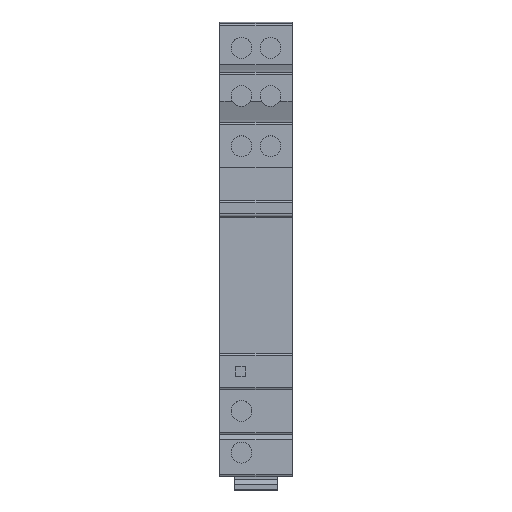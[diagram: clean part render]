
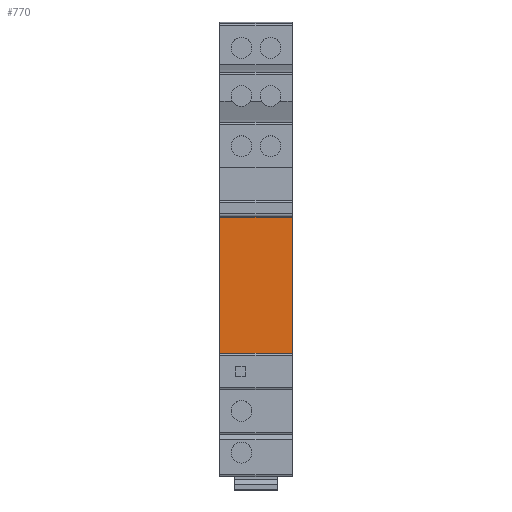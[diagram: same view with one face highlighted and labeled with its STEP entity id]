
A CAD part, top view. The second image highlights one B-rep face of the part: STEP entity #770.
In plain terms, the highlighted planar face has unit normal (0, 0, 1).
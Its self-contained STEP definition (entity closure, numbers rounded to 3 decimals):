
#244 = ORIENTED_EDGE ( 'NONE', *, *, #2442, .T. ) ;
#550 = ORIENTED_EDGE ( 'NONE', *, *, #1262, .F. ) ;
#592 = CARTESIAN_POINT ( 'NONE',  ( 7., -16.977, 68.5 ) ) ;
#697 = EDGE_LOOP ( 'NONE', ( #1107, #2595, #550, #244 ) ) ;
#770 = ADVANCED_FACE ( 'NONE', ( #2313 ), #945, .T. ) ;
#945 = PLANE ( 'NONE',  #2751 ) ;
#960 = CARTESIAN_POINT ( 'NONE',  ( -7., 10.823, 68.5 ) ) ;
#1002 = LINE ( 'NONE', #2895, #3528 ) ;
#1107 = ORIENTED_EDGE ( 'NONE', *, *, #3076, .T. ) ;
#1178 = VERTEX_POINT ( 'NONE', #960 ) ;
#1188 = CARTESIAN_POINT ( 'NONE',  ( 7., 10.823, 68.5 ) ) ;
#1250 = DIRECTION ( 'NONE',  ( 0., -1., 0. ) ) ;
#1262 = EDGE_CURVE ( 'NONE', #1669, #1748, #3596, .T. ) ;
#1340 = VECTOR ( 'NONE', #1367, 1000. ) ;
#1367 = DIRECTION ( 'NONE',  ( -1., 0., 0. ) ) ;
#1390 = VECTOR ( 'NONE', #1250, 1000. ) ;
#1430 = CARTESIAN_POINT ( 'NONE',  ( -7., -16.977, 68.5 ) ) ;
#1669 = VERTEX_POINT ( 'NONE', #1188 ) ;
#1748 = VERTEX_POINT ( 'NONE', #592 ) ;
#1774 = CARTESIAN_POINT ( 'NONE',  ( -7., 10.823, 68.5 ) ) ;
#2313 = FACE_OUTER_BOUND ( 'NONE', #697, .T. ) ;
#2328 = DIRECTION ( 'NONE',  ( 0., 0., 1. ) ) ;
#2334 = EDGE_CURVE ( 'NONE', #1748, #3538, #3230, .T. ) ;
#2343 = CARTESIAN_POINT ( 'NONE',  ( 7., -3.077, 68.5 ) ) ;
#2442 = EDGE_CURVE ( 'NONE', #1669, #1178, #1002, .T. ) ;
#2550 = LINE ( 'NONE', #1774, #1390 ) ;
#2595 = ORIENTED_EDGE ( 'NONE', *, *, #2334, .F. ) ;
#2705 = CARTESIAN_POINT ( 'NONE',  ( 7., 10.823, 68.5 ) ) ;
#2751 = AXIS2_PLACEMENT_3D ( 'NONE', #2343, #2328, #2902 ) ;
#2895 = CARTESIAN_POINT ( 'NONE',  ( 7., 10.823, 68.5 ) ) ;
#2902 = DIRECTION ( 'NONE',  ( 0., 1., 0. ) ) ;
#3067 = CARTESIAN_POINT ( 'NONE',  ( 7., -16.977, 68.5 ) ) ;
#3076 = EDGE_CURVE ( 'NONE', #1178, #3538, #2550, .T. ) ;
#3230 = LINE ( 'NONE', #3067, #1340 ) ;
#3291 = VECTOR ( 'NONE', #3524, 1000. ) ;
#3458 = DIRECTION ( 'NONE',  ( -1., 0., 0. ) ) ;
#3524 = DIRECTION ( 'NONE',  ( 0., -1., 0. ) ) ;
#3528 = VECTOR ( 'NONE', #3458, 1000. ) ;
#3538 = VERTEX_POINT ( 'NONE', #1430 ) ;
#3596 = LINE ( 'NONE', #2705, #3291 ) ;
